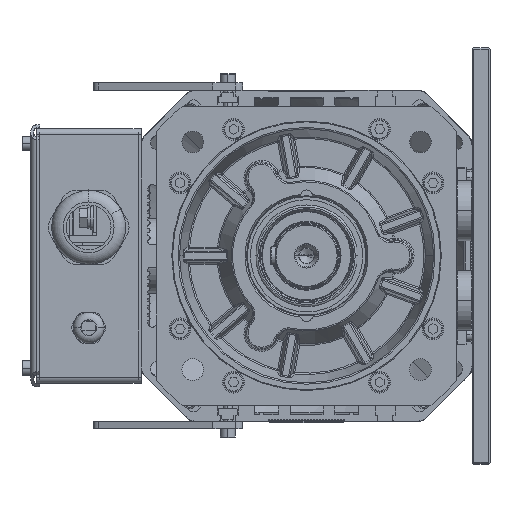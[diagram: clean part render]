
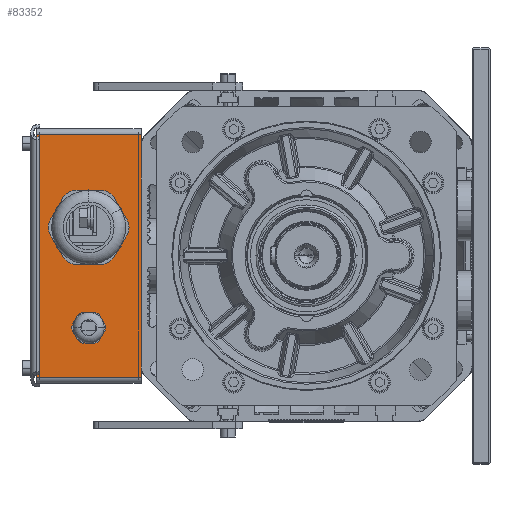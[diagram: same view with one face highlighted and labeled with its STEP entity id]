
A CAD part, left-side view. The second image highlights one B-rep face of the part: STEP entity #83352.
In plain terms, the highlighted planar face has unit normal (-1, 0, 0).
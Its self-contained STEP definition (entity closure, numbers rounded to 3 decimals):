
#81176=DIRECTION('',(0.,0.,1.));
#81177=VECTOR('',#81176,162.);
#81178=CARTESIAN_POINT('',(196.,110.5,-81.));
#81179=LINE('',#81178,#81177);
#81453=CARTESIAN_POINT('',(196.,145.5,-48.));
#81454=DIRECTION('',(-1.,0.,0.));
#81455=DIRECTION('',(0.,1.,0.));
#81456=AXIS2_PLACEMENT_3D('',#81453,#81454,#81455);
#81458=CARTESIAN_POINT('',(196.,145.5,-48.));
#81459=DIRECTION('',(-1.,0.,0.));
#81460=DIRECTION('',(0.,-1.,0.));
#81461=AXIS2_PLACEMENT_3D('',#81458,#81459,#81460);
#81463=CARTESIAN_POINT('',(196.,145.5,19.));
#81464=DIRECTION('',(-1.,0.,0.));
#81465=DIRECTION('',(0.,1.,0.));
#81466=AXIS2_PLACEMENT_3D('',#81463,#81464,#81465);
#81468=CARTESIAN_POINT('',(196.,145.5,19.));
#81469=DIRECTION('',(-1.,0.,0.));
#81470=DIRECTION('',(0.,-1.,0.));
#81471=AXIS2_PLACEMENT_3D('',#81468,#81469,#81470);
#81473=DIRECTION('',(0.,0.,1.));
#81474=VECTOR('',#81473,162.);
#81475=CARTESIAN_POINT('',(196.,180.5,-81.));
#81476=LINE('',#81475,#81474);
#82395=DIRECTION('',(0.,-1.,0.));
#82396=VECTOR('',#82395,70.);
#82397=CARTESIAN_POINT('',(196.,180.5,-81.));
#82398=LINE('',#82397,#82396);
#82415=DIRECTION('',(0.,1.,0.));
#82416=VECTOR('',#82415,70.);
#82417=CARTESIAN_POINT('',(196.,110.5,81.));
#82418=LINE('',#82417,#82416);
#82735=CARTESIAN_POINT('',(196.,155.5,-48.));
#82736=CARTESIAN_POINT('',(196.,135.5,-48.));
#82737=VERTEX_POINT('',#82735);
#82738=VERTEX_POINT('',#82736);
#82739=CARTESIAN_POINT('',(196.,170.5,19.));
#82740=CARTESIAN_POINT('',(196.,120.5,19.));
#82741=VERTEX_POINT('',#82739);
#82742=VERTEX_POINT('',#82740);
#82887=CARTESIAN_POINT('',(196.,110.5,-81.));
#82889=VERTEX_POINT('',#82887);
#82900=CARTESIAN_POINT('',(196.,110.5,81.));
#82902=VERTEX_POINT('',#82900);
#82935=CARTESIAN_POINT('',(196.,180.5,81.));
#82937=VERTEX_POINT('',#82935);
#82948=CARTESIAN_POINT('',(196.,180.5,-81.));
#82950=VERTEX_POINT('',#82948);
#83327=CARTESIAN_POINT('',(196.,110.5,-85.));
#83328=DIRECTION('',(-1.,0.,0.));
#83329=DIRECTION('',(0.,0.,1.));
#83330=AXIS2_PLACEMENT_3D('',#83327,#83328,#83329);
#83331=PLANE('',#83330);
#83333=ORIENTED_EDGE('',*,*,#83332,.F.);
#83334=ORIENTED_EDGE('',*,*,#83134,.F.);
#83336=ORIENTED_EDGE('',*,*,#83335,.F.);
#83337=ORIENTED_EDGE('',*,*,#83194,.T.);
#83338=EDGE_LOOP('',(#83333,#83334,#83336,#83337));
#83339=FACE_OUTER_BOUND('',#83338,.F.);
#83341=ORIENTED_EDGE('',*,*,#83340,.T.);
#83343=ORIENTED_EDGE('',*,*,#83342,.T.);
#83344=EDGE_LOOP('',(#83341,#83343));
#83345=FACE_BOUND('',#83344,.F.);
#83347=ORIENTED_EDGE('',*,*,#83346,.T.);
#83349=ORIENTED_EDGE('',*,*,#83348,.T.);
#83350=EDGE_LOOP('',(#83347,#83349));
#83351=FACE_BOUND('',#83350,.F.);
#83352=ADVANCED_FACE('',(#83339,#83345,#83351),#83331,.T.);
#81457=CIRCLE('',#81456,10.);
#81462=CIRCLE('',#81461,10.);
#81467=CIRCLE('',#81466,25.);
#81472=CIRCLE('',#81471,25.);
#83134=EDGE_CURVE('',#82889,#82902,#81179,.T.);
#83194=EDGE_CURVE('',#82950,#82937,#81476,.T.);
#83332=EDGE_CURVE('',#82902,#82937,#82418,.T.);
#83335=EDGE_CURVE('',#82950,#82889,#82398,.T.);
#83340=EDGE_CURVE('',#82741,#82742,#81467,.T.);
#83342=EDGE_CURVE('',#82742,#82741,#81472,.T.);
#83346=EDGE_CURVE('',#82737,#82738,#81457,.T.);
#83348=EDGE_CURVE('',#82738,#82737,#81462,.T.);
